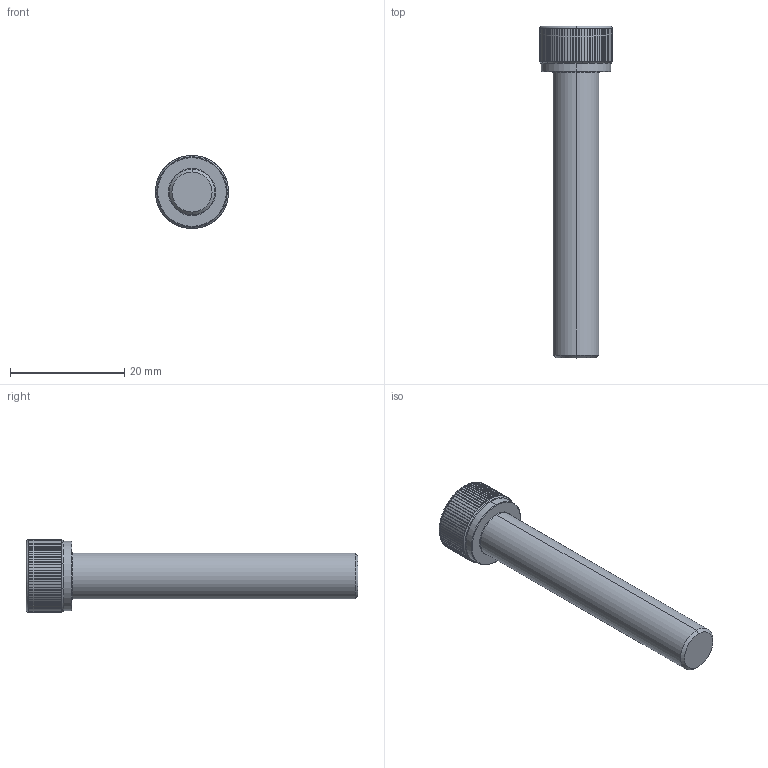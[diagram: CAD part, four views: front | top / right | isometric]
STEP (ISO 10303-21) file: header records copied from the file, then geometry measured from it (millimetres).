
FILE_DESCRIPTION (( 'STEP AP203' ), '1' );
FILE_NAME ('LGDT-304-M8x50.STEP', '2026-08-10T06:49:06', ( '' ), ( '' ), 'SwSTEP 2.0', 'SolidWorks 2020', '' );
FILE_SCHEMA (( 'CONFIG_CONTROL_DESIGN' ));
Length unit declared in the file: millimetre
Products named in the file (1): LGDT-304-M8x50
Bounding box: 12.8 x 58 x 12.8 mm (x, y, z)
Volume: 3361.7 mm3; surface area: 1910.2 mm2
Topology: 1 solids, 1 shells, 204 faces, 576 edges, 376 vertices
Faces by surface type: cylinder 175, cone 11, plane 10, torus 8
Entity records: 8367 total; most frequent: CARTESIAN_POINT 3208, ORIENTED_EDGE 1152, DIRECTION 988, EDGE_CURVE 576, AXIS2_PLACEMENT_3D 398, VERTEX_POINT 376, EDGE_LOOP 206, ADVANCED_FACE 204
